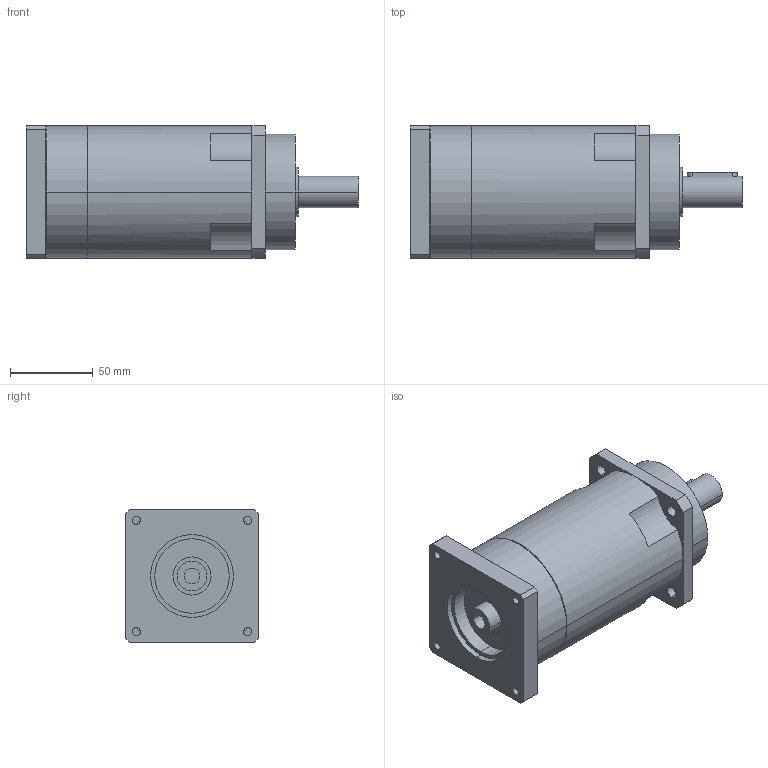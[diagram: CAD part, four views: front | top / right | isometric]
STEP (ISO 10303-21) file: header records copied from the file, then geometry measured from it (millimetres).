
FILE_DESCRIPTION(('CoCreate Modeling STEP Export'),'2;1');
FILE_NAME('GPR100_ig-48-64-80-100-120-144-180-216_19_B5_9.52_P21.stp','2014-08-26T11:57:55',(''),(''),'CoCreate Modeling STEP processor for AP214 (Solid Model)','CoCreate Modeling 16.00C 25-Feb-2009 (C) Parametric Technology GmbH','');
FILE_SCHEMA(('AUTOMOTIVE_DESIGN { 1 0 10303 214 1 1 1 1 }'));
Length unit declared in the file: millimetre
Products named in the file (2): GPR100_ig-48-64-80-100-120-144-180-216_19_B5_9.52_P21
Assembly tree (1 placements, depth 2):
  GPR100_ig-48-64-80-100-120-144-180-216_19_B5_9.52_P21
    GPR100_ig-48-64-80-100-120-144-180-216_19_B5_9.52_P21
Bounding box: 200.4 x 80 x 80 mm (x, y, z)
Volume: 803005.9 mm3; surface area: 64701 mm2
Topology: 1 solids, 1 shells, 89 faces, 243 edges, 165 vertices
Faces by surface type: cylinder 52, plane 31, cone 6
Entity records: 2592 total; most frequent: ORIENTED_EDGE 482, CARTESIAN_POINT 470, DIRECTION 386, EDGE_CURVE 241, VERTEX_POINT 165, AXIS2_PLACEMENT_3D 145, EDGE_LOOP 116, VECTOR 96
